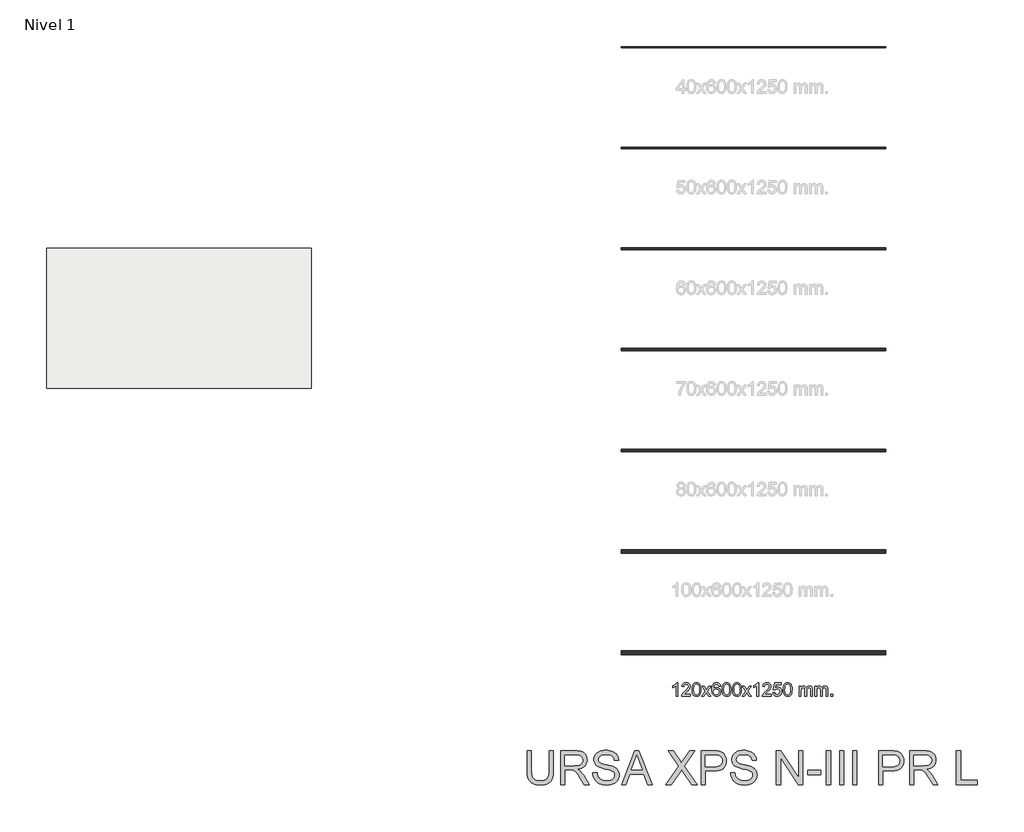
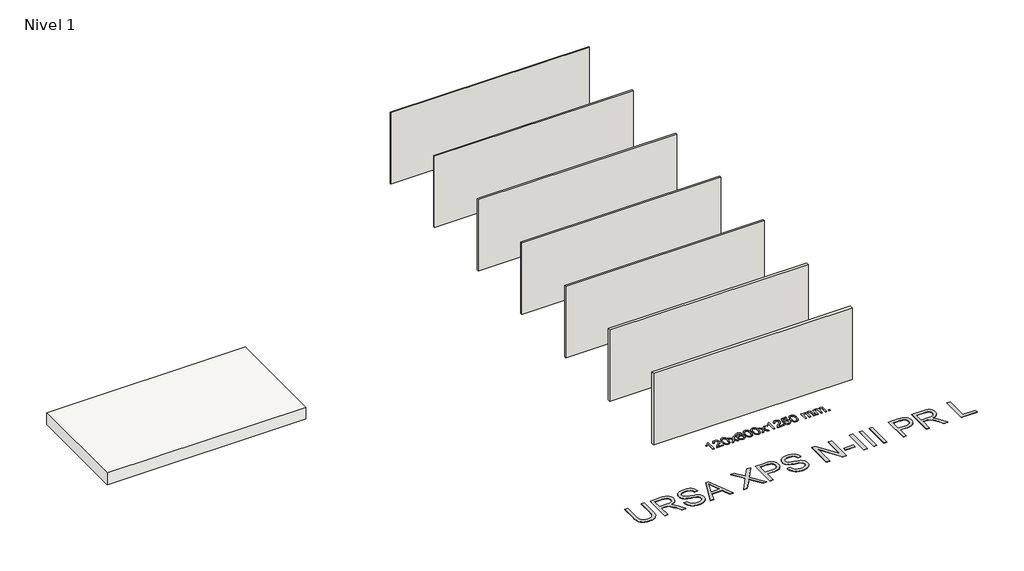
# One storey, part 1 of 4: 7 walls, 2 proxies, 1 slab.
"""IFC4 building model written with IfcOpenShell, lengths in millimetres."""

from ifc_helpers import new_model, si_unit, frame, origin, origin_with_axes, place, context, project, spatial, polyline, outline, extrude, element, save

model = new_model("IFC4")

# Units and contexts
model_context = context("Model", 3, world=origin())
ifc_project = project(units=[si_unit("LENGTHUNIT", "METRE", prefix="MILLI")], contexts=[model_context])

# Site, building, storey
site = spatial("IfcSite", under=ifc_project)
building = spatial("IfcBuilding", under=site)
storey = spatial("IfcBuildingStorey", under=building, Name="Nivel 1", Elevation=0.0)

# Proxies
placement = place(None, origin())
element("IfcBuildingElementProxy", 1, Name="Texto de modelo 1", ObjectType="Texto de modelo 1", at=placement, inside=storey, context=model_context, shape_type="SweptSolid", body=[
    extrude(outline(polyline([(-4836.3117093, -15377.579453), (-4886.5398644, -15377.579453), (-4886.5398644, -15064.4382987), (-4907.5091381, -15081.3976587), (-4934.1192691, -15098.3324932), (-4986.9961745, -15123.6918254), (-4986.9961745, -15076.2105225), (-4947.5469619, -15054.7507395), (-4913.3707246, -15029.219729), (-4886.4294998, -15002.0700378), (-4868.6853249, -14975.7542124), (-4836.3117093, -14975.7542124), (-4836.3117093, -15377.579453)])), origin_with_axes(), (0.0, 0.0, 1.0), 10.0),
    extrude(outline(polyline([(-4459.6005462, -15327.3512979), (-4459.6005462, -15377.579453), (-4723.2983604, -15377.579453), (-4722.1947144, -15359.8965918), (-4717.9027578, -15342.9494945), (-4705.5173973, -15315.8856424), (-4687.3930777, -15289.6311307), (-4661.1753541, -15262.1503456), (-4624.5097819, -15231.4076736), (-4570.3085013, -15183.2641831), (-4537.7877329, -15147.7267824), (-4521.5273488, -15118.884834), (-4516.1072207, -15090.8277005), (-4521.2207804, -15065.6768347), (-4536.5614596, -15044.7688747), (-4560.1426955, -15030.6789943), (-4589.9779253, -15025.9823675), (-4621.3092086, -15030.5686297), (-4645.6507339, -15044.3274163), (-4661.3592951, -15066.1796068), (-4666.7916859, -15095.0460807), (-4717.019841, -15088.7675613), (-4712.7002932, -15062.838012), (-4704.842947, -15040.1826125), (-4693.4478022, -15020.8013627), (-4678.5148588, -15004.6942627), (-4660.3874735, -14992.0329907), (-4639.4090027, -14982.989225), (-4615.5794465, -14977.5629655), (-4588.8988048, -14975.7542124), (-4561.9790398, -14977.7653006), (-4538.0207249, -14983.7985654), (-4517.02386, -14993.8540066), (-4498.9884452, -15007.9316242), (-4484.5030916, -15024.9890861), (-4474.1564105, -15043.9840598), (-4467.9484018, -15064.9165453), (-4465.8790656, -15087.7865427), (-4468.1108831, -15111.8092369), (-4474.8063354, -15135.4149983), (-4486.6889238, -15159.4254299), (-4504.4821497, -15184.6621347), (-4532.8458515, -15214.7916701), (-4576.4398679, -15253.4805933), (-4634.2218666, -15301.795762), (-4656.8833975, -15327.3512979), (-4459.6005462, -15327.3512979)])), origin_with_axes(), (0.0, 0.0, 1.0), 10.0),
    extrude(outline(polyline([(-4409.3723912, -15179.9041943), (-4405.6813085, -15115.5861588), (-4394.6080604, -15064.2911459), (-4376.2630116, -15025.2343407), (-4364.4049486, -15010.0009605), (-4350.7565266, -14997.6309284), (-4335.2717603, -14988.0598651), (-4317.9046644, -14981.2233914), (-4277.5234841, -14975.7542124), (-4246.5723456, -14978.991574), (-4218.8585686, -14988.7036586), (-4195.6820029, -15004.5103217), (-4178.3424982, -15026.0314184), (-4165.2458992, -15053.0830078), (-4154.7980505, -15085.4811488), (-4147.9554454, -15126.6226186), (-4145.674577, -15179.9041943), (-4149.3288715, -15243.8543477), (-4160.291755, -15295.0267333), (-4178.5264392, -15334.1203266), (-4190.356911, -15349.3996922), (-4203.996136, -15361.8341036), (-4219.4992964, -15371.4695462), (-4236.9215746, -15378.3520052), (-4277.5234841, -15383.8579724), (-4305.1882101, -15381.4667394), (-4329.7136765, -15374.2930405), (-4351.0998831, -15362.3368757), (-4369.3468301, -15345.5982449), (-4386.8580131, -15315.3399508), (-4399.3660009, -15277.6381776), (-4406.8707936, -15232.4929255), (-4409.3723912, -15179.9041943)]), holes=[polyline([(-4359.1442361, -15179.8060924), (-4357.6727081, -15223.4706195), (-4353.2581242, -15258.8148822), (-4345.9004843, -15285.8388804), (-4335.5997884, -15304.5426142), (-4323.1408515, -15317.2682656), (-4309.3084885, -15326.3580165), (-4294.1026993, -15331.8118671), (-4277.5234841, -15333.6298173), (-4260.9442688, -15331.8057357), (-4245.7384797, -15326.3334911), (-4231.9061167, -15317.2130833), (-4219.4471798, -15304.4445124), (-4209.1464839, -15285.7101217), (-4201.788844, -15258.6922549), (-4197.3742601, -15223.3909118), (-4195.9027321, -15179.8060924), (-4197.3252091, -15137.2973278), (-4201.5926403, -15102.5753989), (-4208.7050255, -15075.6403055), (-4218.6623649, -15056.4920476), (-4230.9128353, -15043.1440625), (-4244.9046139, -15033.6097875), (-4260.6377005, -15027.8892225), (-4278.1120953, -15025.9823675), (-4294.6054714, -15027.6623619), (-4309.5537431, -15032.7023452), (-4322.9569105, -15041.1023175), (-4334.8149735, -15052.8622786), (-4345.4590259, -15073.708925), (-4353.0619204, -15101.8151094), (-4357.6236572, -15137.1808319), (-4359.1442361, -15179.8060924)])]), origin_with_axes(), (0.0, 0.0, 1.0), 10.0),
    extrude(outline(polyline([(-4120.5604995, -15377.579453), (-4013.2370588, -15229.2494325), (-4114.2819801, -15082.4890419), (-4053.851231, -15082.4890419), (-4005.0946039, -15153.122385), (-3982.3349712, -15186.4770192), (-3962.6164962, -15159.2047007), (-3907.0908404, -15082.4890419), (-3846.6600913, -15082.4890419), (-3952.8063097, -15229.2494325), (-3850.584166, -15377.579453), (-3911.014915, -15377.579453), (-3972.5247846, -15288.4048574), (-3983.8064991, -15272.1199477), (-4060.1297504, -15377.579453), (-4120.5604995, -15377.579453)])), origin_with_axes(), (0.0, 0.0, 1.0), 10.0),
    extrude(outline(polyline([(-3561.7722743, -15082.4890419), (-3612.0004294, -15088.7675613), (-3620.0938332, -15063.874213), (-3631.0321912, -15046.8780648), (-3653.8163495, -15031.2062918), (-3681.3584482, -15025.9823675), (-3704.7066921, -15029.0235253), (-3726.68151, -15038.1469988), (-3745.5538563, -15057.3627017), (-3760.9681119, -15083.8134171), (-3771.3791724, -15121.227016), (-3775.2419333, -15173.3313693), (-3755.0942627, -15149.8237098), (-3730.9489411, -15133.2567573), (-3704.1548691, -15123.434308), (-3676.0609474, -15120.1601582), (-3651.9278886, -15122.398107), (-3629.6587651, -15129.1119534), (-3609.2535771, -15140.3016975), (-3590.7123246, -15155.9673391), (-3575.3042003, -15175.1769106), (-3564.2983973, -15196.9984443), (-3557.6949155, -15221.4319401), (-3555.4937549, -15248.4773982), (-3559.6385587, -15284.4439945), (-3572.0729701, -15317.786366), (-3591.7669196, -15346.0642287), (-3617.6903375, -15366.8372987), (-3648.6660015, -15379.602804), (-3683.5166892, -15383.8579724), (-3713.4592179, -15381.0375437), (-3740.5016103, -15372.5762579), (-3764.6438662, -15358.4741147), (-3785.8859857, -15338.7311143), (-3803.2040307, -15312.5133908), (-3815.5740627, -15278.9870783), (-3822.996082, -15238.1521768), (-3825.4700884, -15190.0086864), (-3822.7232362, -15136.0342663), (-3814.4826795, -15089.9693092), (-3800.7484183, -15051.8138149), (-3781.5204527, -15021.5677835), (-3760.6799377, -15001.5243462), (-3736.516222, -14987.2076052), (-3709.0293056, -14978.6175606), (-3678.2191885, -14975.7542124), (-3655.0855424, -14977.5261773), (-3634.1469255, -14982.8420722), (-3615.4033378, -14991.7018969), (-3598.8547794, -15004.1056515), (-3584.94884, -15019.6364031), (-3574.1331093, -15037.8772186), (-3566.4075874, -15058.8280983), (-3561.7722743, -15082.4890419)]), holes=[polyline([(-3775.2419333, -15247.6925832), (-3772.3356656, -15269.9494439), (-3763.6168623, -15291.2007605), (-3750.0788049, -15309.472233), (-3732.7147747, -15322.7895612), (-3711.7577637, -15330.9197533), (-3687.4407638, -15333.6298173), (-3654.2945961, -15328.0134855), (-3640.3794596, -15320.9930708), (-3628.2362881, -15311.1644901), (-3618.3862477, -15298.9262824), (-3611.3505045, -15284.6769865), (-3605.72191, -15250.1451299), (-3611.2769281, -15216.9989621), (-3618.2207008, -15203.3781312), (-3627.9419825, -15191.725469), (-3640.1219422, -15182.3904634), (-3654.4417489, -15175.7226022), (-3689.500903, -15170.3883133), (-3722.5980198, -15175.7226022), (-3750.2750086, -15191.725469), (-3761.1980382, -15203.2248471), (-3769.0002022, -15216.3858254), (-3773.6815005, -15231.2084042), (-3775.2419333, -15247.6925832)])]), origin_with_axes(), (0.0, 0.0, 1.0), 10.0),
    extrude(outline(polyline([(-3511.5441192, -15179.9041943), (-3507.8530365, -15115.5861588), (-3496.7797885, -15064.2911459), (-3478.4347396, -15025.2343407), (-3466.5766767, -15010.0009605), (-3452.9282546, -14997.6309284), (-3437.4434883, -14988.0598651), (-3420.0763925, -14981.2233914), (-3379.6952121, -14975.7542124), (-3348.7440736, -14978.991574), (-3321.0302966, -14988.7036586), (-3297.8537309, -15004.5103217), (-3280.5142262, -15026.0314184), (-3267.4176272, -15053.0830078), (-3256.9697785, -15085.4811488), (-3250.1271734, -15126.6226186), (-3247.8463051, -15179.9041943), (-3251.5005995, -15243.8543477), (-3262.463483, -15295.0267333), (-3280.6981672, -15334.1203266), (-3292.5286391, -15349.3996922), (-3306.167864, -15361.8341036), (-3321.6710244, -15371.4695462), (-3339.0933026, -15378.3520052), (-3379.6952121, -15383.8579724), (-3407.3599382, -15381.4667394), (-3431.8854045, -15374.2930405), (-3453.2716112, -15362.3368757), (-3471.5185581, -15345.5982449), (-3489.0297411, -15315.3399508), (-3501.5377289, -15277.6381776), (-3509.0425216, -15232.4929255), (-3511.5441192, -15179.9041943)]), holes=[polyline([(-3461.3159641, -15179.8060924), (-3459.8444361, -15223.4706195), (-3455.4298522, -15258.8148822), (-3448.0722123, -15285.8388804), (-3437.7715164, -15304.5426142), (-3425.3125795, -15317.2682656), (-3411.4802165, -15326.3580165), (-3396.2744274, -15331.8118671), (-3379.6952121, -15333.6298173), (-3363.1159969, -15331.8057357), (-3347.9102077, -15326.3334911), (-3334.0778447, -15317.2130833), (-3321.6189078, -15304.4445124), (-3311.318212, -15285.7101217), (-3303.9605721, -15258.6922549), (-3299.5459881, -15223.3909118), (-3298.0744601, -15179.8060924), (-3299.4969372, -15137.2973278), (-3303.7643683, -15102.5753989), (-3310.8767536, -15075.6403055), (-3320.8340929, -15056.4920476), (-3333.0845633, -15043.1440625), (-3347.0763419, -15033.6097875), (-3362.8094286, -15027.8892225), (-3380.2838233, -15025.9823675), (-3396.7771994, -15027.6623619), (-3411.7254712, -15032.7023452), (-3425.1286385, -15041.1023175), (-3436.9867015, -15052.8622786), (-3447.6307539, -15073.708925), (-3455.2336485, -15101.8151094), (-3459.7953852, -15137.1808319), (-3461.3159641, -15179.8060924)])]), origin_with_axes(), (0.0, 0.0, 1.0), 10.0),
    extrude(outline(polyline([(-3203.8966694, -15179.9041943), (-3200.2055867, -15115.5861588), (-3189.1323386, -15064.2911459), (-3170.7872898, -15025.2343407), (-3158.9292268, -15010.0009605), (-3145.2808048, -14997.6309284), (-3129.7960385, -14988.0598651), (-3112.4289426, -14981.2233914), (-3072.0477623, -14975.7542124), (-3041.0966238, -14978.991574), (-3013.3828468, -14988.7036586), (-2990.2062811, -15004.5103217), (-2972.8667764, -15026.0314184), (-2959.7701774, -15053.0830078), (-2949.3223287, -15085.4811488), (-2942.4797236, -15126.6226186), (-2940.1988552, -15179.9041943), (-2943.8531497, -15243.8543477), (-2954.8160332, -15295.0267333), (-2973.0507174, -15334.1203266), (-2984.8811892, -15349.3996922), (-2998.5204142, -15361.8341036), (-3014.0235746, -15371.4695462), (-3031.4458528, -15378.3520052), (-3072.0477623, -15383.8579724), (-3099.7124883, -15381.4667394), (-3124.2379547, -15374.2930405), (-3145.6241613, -15362.3368757), (-3163.8711083, -15345.5982449), (-3181.3822913, -15315.3399508), (-3193.8902791, -15277.6381776), (-3201.3950718, -15232.4929255), (-3203.8966694, -15179.9041943)]), holes=[polyline([(-3153.6685143, -15179.8060924), (-3152.1969863, -15223.4706195), (-3147.7824024, -15258.8148822), (-3140.4247625, -15285.8388804), (-3130.1240666, -15304.5426142), (-3117.6651297, -15317.2682656), (-3103.8327667, -15326.3580165), (-3088.6269775, -15331.8118671), (-3072.0477623, -15333.6298173), (-3055.468547, -15331.8057357), (-3040.2627579, -15326.3334911), (-3026.4303949, -15317.2130833), (-3013.971458, -15304.4445124), (-3003.6707621, -15285.7101217), (-2996.3131222, -15258.6922549), (-2991.8985383, -15223.3909118), (-2990.4270103, -15179.8060924), (-2991.8494873, -15137.2973278), (-2996.1169185, -15102.5753989), (-3003.2293037, -15075.6403055), (-3013.1866431, -15056.4920476), (-3025.4371135, -15043.1440625), (-3039.4288921, -15033.6097875), (-3055.1619787, -15027.8892225), (-3072.6363735, -15025.9823675), (-3089.1297496, -15027.6623619), (-3104.0780213, -15032.7023452), (-3117.4811887, -15041.1023175), (-3129.3392517, -15052.8622786), (-3139.9833041, -15073.708925), (-3147.5861986, -15101.8151094), (-3152.1479354, -15137.1808319), (-3153.6685143, -15179.8060924)])]), origin_with_axes(), (0.0, 0.0, 1.0), 10.0),
    extrude(outline(polyline([(-2915.0847777, -15377.579453), (-2807.761337, -15229.2494325), (-2908.8062583, -15082.4890419), (-2848.3755092, -15082.4890419), (-2799.6188821, -15153.122385), (-2776.8592494, -15186.4770192), (-2757.1407744, -15159.2047007), (-2701.6151186, -15082.4890419), (-2641.1843695, -15082.4890419), (-2747.3305879, -15229.2494325), (-2645.1084442, -15377.579453), (-2705.5391932, -15377.579453), (-2767.0490628, -15288.4048574), (-2778.3307773, -15272.1199477), (-2854.6540286, -15377.579453), (-2915.0847777, -15377.579453)])), origin_with_axes(), (0.0, 0.0, 1.0), 10.0),
    extrude(outline(polyline([(-2425.3602657, -15377.579453), (-2475.5884208, -15377.579453), (-2475.5884208, -15064.4382987), (-2496.5576945, -15081.3976587), (-2523.1678255, -15098.3324932), (-2576.0447309, -15123.6918254), (-2576.0447309, -15076.2105225), (-2536.5955183, -15054.7507395), (-2502.419281, -15029.219729), (-2475.4780562, -15002.0700378), (-2457.7338813, -14975.7542124), (-2425.3602657, -14975.7542124), (-2425.3602657, -15377.579453)])), origin_with_axes(), (0.0, 0.0, 1.0), 10.0),
    extrude(outline(polyline([(-2048.6491026, -15327.3512979), (-2048.6491026, -15377.579453), (-2312.3469168, -15377.579453), (-2311.2432708, -15359.8965918), (-2306.9513142, -15342.9494945), (-2294.5659537, -15315.8856424), (-2276.4416341, -15289.6311307), (-2250.2239105, -15262.1503456), (-2213.5583384, -15231.4076736), (-2159.3570577, -15183.2641831), (-2126.8362894, -15147.7267824), (-2110.5759052, -15118.884834), (-2105.1557771, -15090.8277005), (-2110.2693368, -15065.6768347), (-2125.610016, -15044.7688747), (-2149.1912519, -15030.6789943), (-2179.0264817, -15025.9823675), (-2210.357765, -15030.5686297), (-2234.6992903, -15044.3274163), (-2250.4078515, -15066.1796068), (-2255.8402423, -15095.0460807), (-2306.0683974, -15088.7675613), (-2301.7488496, -15062.838012), (-2293.8915034, -15040.1826125), (-2282.4963586, -15020.8013627), (-2267.5634152, -15004.6942627), (-2249.4360299, -14992.0329907), (-2228.4575592, -14982.989225), (-2204.6280029, -14977.5629655), (-2177.9473612, -14975.7542124), (-2151.0275962, -14977.7653006), (-2127.0692813, -14983.7985654), (-2106.0724164, -14993.8540066), (-2088.0370016, -15007.9316242), (-2073.551648, -15024.9890861), (-2063.2049669, -15043.9840598), (-2056.9969583, -15064.9165453), (-2054.927622, -15087.7865427), (-2057.1594395, -15111.8092369), (-2063.8548918, -15135.4149983), (-2075.7374802, -15159.4254299), (-2093.5307061, -15184.6621347), (-2121.8944079, -15214.7916701), (-2165.4884243, -15253.4805933), (-2223.270423, -15301.795762), (-2245.9319539, -15327.3512979), (-2048.6491026, -15327.3512979)])), origin_with_axes(), (0.0, 0.0, 1.0), 10.0),
    extrude(outline(polyline([(-1998.4209476, -15270.8446235), (-1948.1927925, -15264.5661041), (-1938.9712172, -15294.7201649), (-1922.8825112, -15316.3148381), (-1900.0002511, -15329.3010725), (-1870.3980133, -15333.6298173), (-1851.2681495, -15332.1245668), (-1834.3946287, -15327.6088153), (-1819.7774507, -15320.0825628), (-1807.4166157, -15309.5458094), (-1797.588035, -15296.519721), (-1790.5676203, -15281.5254641), (-1784.9512885, -15245.6324441), (-1790.212001, -15211.8363514), (-1796.7878917, -15197.9181493), (-1805.9941386, -15185.9865099), (-1817.8613987, -15176.4154467), (-1832.4203286, -15169.5789729), (-1869.6131983, -15164.1097939), (-1893.9792491, -15166.2925604), (-1913.7099868, -15172.8408599), (-1929.4675989, -15182.8717757), (-1941.9142731, -15195.5023908), (-1992.1424282, -15189.2238715), (-1948.1927925, -14982.0327318), (-1753.5586916, -14982.0327318), (-1753.5586916, -15032.2608869), (-1907.5786202, -15032.2608869), (-1929.0629287, -15142.919791), (-1911.3371479, -15130.2155994), (-1893.1821715, -15121.1411769), (-1874.5979994, -15115.6965234), (-1855.5846316, -15113.8816388), (-1831.1235446, -15116.1318504), (-1808.6551517, -15122.882485), (-1788.179453, -15134.1335427), (-1769.6964484, -15149.8850234), (-1754.3956231, -15169.1743027), (-1743.4664622, -15191.038756), (-1736.9089656, -15215.4783832), (-1734.7231334, -15242.4931844), (-1736.6913021, -15268.5147042), (-1742.5958081, -15292.7213394), (-1752.4366515, -15315.1130902), (-1766.2138322, -15335.6899565), (-1787.0850041, -15356.7634634), (-1811.4387922, -15371.8159684), (-1839.2751965, -15380.8474714), (-1870.594217, -15383.8579724), (-1896.5145692, -15381.9235262), (-1919.9271925, -15376.1201877), (-1940.8320869, -15366.447957), (-1959.2292524, -15352.9068338), (-1974.536209, -15336.1712688), (-1986.1704771, -15316.915712), (-1994.1320566, -15295.1401636), (-1998.4209476, -15270.8446235)])), origin_with_axes(), (0.0, 0.0, 1.0), 10.0),
    extrude(outline(polyline([(-1690.7734977, -15179.9041943), (-1687.0824151, -15115.5861588), (-1676.009167, -15064.2911459), (-1657.6641182, -15025.2343407), (-1645.8060552, -15010.0009605), (-1632.1576332, -14997.6309284), (-1616.6728669, -14988.0598651), (-1599.305771, -14981.2233914), (-1558.9245907, -14975.7542124), (-1527.9734521, -14978.991574), (-1500.2596752, -14988.7036586), (-1477.0831095, -15004.5103217), (-1459.7436048, -15026.0314184), (-1446.6470057, -15053.0830078), (-1436.1991571, -15085.4811488), (-1429.356552, -15126.6226186), (-1427.0756836, -15179.9041943), (-1430.7299781, -15243.8543477), (-1441.6928615, -15295.0267333), (-1459.9275458, -15334.1203266), (-1471.7580176, -15349.3996922), (-1485.3972426, -15361.8341036), (-1500.900403, -15371.4695462), (-1518.3226811, -15378.3520052), (-1558.9245907, -15383.8579724), (-1586.5893167, -15381.4667394), (-1611.1147831, -15374.2930405), (-1632.5009897, -15362.3368757), (-1650.7479367, -15345.5982449), (-1668.2591196, -15315.3399508), (-1680.7671075, -15277.6381776), (-1688.2719002, -15232.4929255), (-1690.7734977, -15179.9041943)]), holes=[polyline([(-1640.5453427, -15179.8060924), (-1639.0738147, -15223.4706195), (-1634.6592307, -15258.8148822), (-1627.3015908, -15285.8388804), (-1617.000895, -15304.5426142), (-1604.5419581, -15317.2682656), (-1590.7095951, -15326.3580165), (-1575.5038059, -15331.8118671), (-1558.9245907, -15333.6298173), (-1542.3453754, -15331.8057357), (-1527.1395863, -15326.3334911), (-1513.3072233, -15317.2130833), (-1500.8482864, -15304.4445124), (-1490.5475905, -15285.7101217), (-1483.1899506, -15258.6922549), (-1478.7753667, -15223.3909118), (-1477.3038387, -15179.8060924), (-1478.7263157, -15137.2973278), (-1482.9937469, -15102.5753989), (-1490.1061321, -15075.6403055), (-1500.0634714, -15056.4920476), (-1512.3139419, -15043.1440625), (-1526.3057204, -15033.6097875), (-1542.0388071, -15027.8892225), (-1559.5132019, -15025.9823675), (-1576.006578, -15027.6623619), (-1590.9548497, -15032.7023452), (-1604.3580171, -15041.1023175), (-1616.2160801, -15052.8622786), (-1626.8601324, -15073.708925), (-1634.463027, -15101.8151094), (-1639.0247638, -15137.1808319), (-1640.5453427, -15179.8060924)])]), origin_with_axes(), (0.0, 0.0, 1.0), 10.0),
    extrude(outline(polyline([(-1213.6060245, -15377.579453), (-1213.6060245, -15082.4890419), (-1163.3778695, -15082.4890419), (-1163.3778695, -15131.0494653), (-1148.2701822, -15108.7435537), (-1128.8460128, -15091.2691589), (-1105.767549, -15079.9751816), (-1079.6969783, -15076.2105225), (-1051.7624721, -15080.048758), (-1029.3707213, -15091.5634645), (-1012.6443533, -15109.9943524), (-1001.7059953, -15134.5811324), (-983.3977347, -15109.0439906), (-962.5143001, -15090.803175), (-939.0556915, -15079.8586857), (-913.021909, -15076.2105225), (-892.9140923, -15077.7280358), (-875.2649536, -15082.2805755), (-860.0744928, -15089.8681416), (-847.3427101, -15100.4907342), (-837.2780719, -15114.2709806), (-830.0890446, -15131.3315082), (-825.7756282, -15151.6723168), (-824.3378227, -15175.2934066), (-824.3378227, -15377.579453), (-874.5659778, -15377.579453), (-874.5659778, -15196.875817), (-875.7309374, -15171.8230531), (-879.2258164, -15154.9372695), (-885.7741159, -15143.3735121), (-896.0993372, -15134.2868268), (-909.3798773, -15128.4007149), (-924.7941329, -15126.4386776), (-952.0051378, -15131.4663982), (-974.1884221, -15146.54956), (-982.7937951, -15158.1194488), (-988.9404901, -15172.7182326), (-993.8578461, -15211.0024856), (-993.8578461, -15377.579453), (-1044.0860012, -15377.579453), (-1044.0860012, -15191.2840106), (-1046.9922689, -15162.8835206), (-1055.7110722, -15142.6254854), (-1071.0517514, -15130.4853796), (-1093.8236469, -15126.4386776), (-1113.1742398, -15129.1364789), (-1131.0042539, -15137.2298828), (-1145.7195337, -15150.5226856), (-1155.725924, -15168.8186835), (-1161.4648831, -15194.2025411), (-1163.3778695, -15228.7589232), (-1163.3778695, -15377.579453), (-1213.6060245, -15377.579453)])), origin_with_axes(), (0.0, 0.0, 1.0), 10.0),
    extrude(outline(polyline([(-748.9955901, -15377.579453), (-748.9955901, -15082.4890419), (-698.767435, -15082.4890419), (-698.767435, -15131.0494653), (-683.6597477, -15108.7435537), (-664.2355784, -15091.2691589), (-641.1571146, -15079.9751816), (-615.0865438, -15076.2105225), (-587.1520377, -15080.048758), (-564.7602869, -15091.5634645), (-548.0339189, -15109.9943524), (-537.0955609, -15134.5811324), (-518.7873002, -15109.0439906), (-497.9038656, -15090.803175), (-474.4452571, -15079.8586857), (-448.4114746, -15076.2105225), (-428.3036578, -15077.7280358), (-410.6545191, -15082.2805755), (-395.4640584, -15089.8681416), (-382.7322757, -15100.4907342), (-372.6676374, -15114.2709806), (-365.4786101, -15131.3315082), (-361.1651937, -15151.6723168), (-359.7273883, -15175.2934066), (-359.7273883, -15377.579453), (-409.9555433, -15377.579453), (-409.9555433, -15196.875817), (-411.120503, -15171.8230531), (-414.6153819, -15154.9372695), (-421.1636815, -15143.3735121), (-431.4889028, -15134.2868268), (-444.7694428, -15128.4007149), (-460.1836984, -15126.4386776), (-487.3947033, -15131.4663982), (-509.5779876, -15146.54956), (-518.1833606, -15158.1194488), (-524.3300556, -15172.7182326), (-529.2474116, -15211.0024856), (-529.2474116, -15377.579453), (-579.4755667, -15377.579453), (-579.4755667, -15191.2840106), (-582.3818345, -15162.8835206), (-591.1006378, -15142.6254854), (-606.441317, -15130.4853796), (-629.2132125, -15126.4386776), (-648.5638054, -15129.1364789), (-666.3938194, -15137.2298828), (-681.1090992, -15150.5226856), (-691.1154895, -15168.8186835), (-696.8544486, -15194.2025411), (-698.767435, -15228.7589232), (-698.767435, -15377.579453), (-748.9955901, -15377.579453)])), origin_with_axes(), (0.0, 0.0, 1.0), 10.0),
    extrude(outline(polyline([(-271.8281169, -15377.579453), (-271.8281169, -15327.3512979), (-221.5999618, -15327.3512979), (-221.5999618, -15377.579453), (-271.8281169, -15377.579453)])), origin_with_axes(), (0.0, 0.0, 1.0), 10.0),
])
element("IfcBuildingElementProxy", 2, Name="Texto de modelo 2", ObjectType="Texto de modelo 2", at=placement, inside=storey, context=model_context, shape_type="SweptSolid", body=[
    extrude(outline(polyline([(-8674.2938661, -17011.8387308), (-8548.7234784, -17011.8387308), (-8548.7234784, -17591.3755006), (-8550.8541283, -17663.1354823), (-8557.2460779, -17727.0933), (-8567.8993274, -17783.2489537), (-8582.8138766, -17831.6024434), (-8603.2773126, -17873.985515), (-8630.5772223, -17912.229914), (-8664.7136058, -17946.3356407), (-8705.686463, -17976.3026949), (-8753.5417792, -18000.7131981), (-8808.3255396, -18018.1492718), (-8870.0377443, -18028.6109161), (-8938.6783933, -18032.0981308), (-9005.6252522, -18029.0631043), (-9066.1801614, -18019.958025), (-9120.343121, -18004.7828927), (-9168.1141309, -17983.5377074), (-9209.5008554, -17956.5367018), (-9244.5109586, -17924.0941084), (-9273.1444406, -17886.2099271), (-9295.4013013, -17842.8841579), (-9312.0862826, -17792.6299446), (-9324.0041264, -17733.9604305), (-9331.1548327, -17666.8756159), (-9333.5384014, -17591.3755006), (-9333.5384014, -17011.8387308), (-9207.9680137, -17011.8387308), (-9207.9680137, -17586.9609166), (-9206.4198437, -17647.66911), (-9201.7753335, -17699.8087187), (-9194.0344832, -17743.3797425), (-9183.1972927, -17778.3821815), (-9168.5893118, -17807.3452244), (-9149.5360902, -17832.7980599), (-9126.0376277, -17854.7406881), (-9098.0939245, -17873.1731089), (-9066.2414751, -17887.7657614), (-9031.0167741, -17898.1890846), (-8992.4198214, -17904.4430785), (-8950.4506171, -17906.5277431), (-8881.2428168, -17902.4043991), (-8822.7342511, -17890.034367), (-8774.9249202, -17869.4176468), (-8755.0324677, -17856.0167788), (-8737.8148239, -17840.5542386), (-8722.9270994, -17822.1601389), (-8710.0244048, -17799.9645918), (-8690.1741055, -17744.1691559), (-8678.2639259, -17673.1679308), (-8674.2938661, -17586.9609166), (-8674.2938661, -17011.8387308)])), origin_with_axes(), (0.0, 0.0, 1.0), 10.0),
    extrude(outline(polyline([(-8328.9752999, -18016.4018323), (-8328.9752999, -17011.8387308), (-7896.1008189, -17011.8387308), (-7833.9670828, -17013.5325209), (-7779.758138, -17018.6138909), (-7733.4739844, -17027.082841), (-7695.1146222, -17038.9393712), (-7662.4497668, -17055.0955221), (-7633.2491334, -17076.4633347), (-7607.5127221, -17103.0428088), (-7585.240533, -17134.8339446), (-7567.2679647, -17170.1276235), (-7554.4304159, -17207.2147271), (-7546.7278866, -17246.0952555), (-7544.1603769, -17286.7692086), (-7548.4140125, -17338.3646584), (-7561.1749192, -17385.7294653), (-7582.443097, -17428.8636292), (-7612.218546, -17467.7671502), (-7650.8844765, -17501.1984265), (-7698.824099, -17527.9158564), (-7756.0374135, -17547.9194399), (-7822.5244199, -17561.209177), (-7781.1376954, -17588.2485036), (-7751.1553128, -17614.9199483), (-7699.7131472, -17675.9270458), (-7649.3746275, -17744.1691559), (-7481.8656924, -18016.4018323), (-7627.7922171, -18016.4018323), (-7758.5129527, -17808.1806231), (-7810.8135097, -17728.7181121), (-7852.9359982, -17670.3475022), (-7888.0380719, -17630.1563942), (-7919.2773846, -17605.2323891), (-7948.8612284, -17590.6090798), (-7978.9968952, -17581.3200594), (-8051.8375302, -17576.9054754), (-8203.4049122, -17576.9054754), (-8203.4049122, -18016.4018323), (-8328.9752999, -18016.4018323)]), holes=[polyline([(-8203.4049122, -17451.3350877), (-7922.3430679, -17451.3350877), (-7841.6236268, -17446.889847), (-7778.9917171, -17433.5541246), (-7753.8071289, -17423.3300709), (-7731.8415081, -17410.4388726), (-7713.0948548, -17394.8805299), (-7697.5671689, -17376.6550427), (-7685.388742, -17356.6591234), (-7676.6898656, -17335.7894844), (-7671.4705398, -17314.0461257), (-7669.7307646, -17291.4290472), (-7673.0493667, -17259.3160147), (-7683.0051732, -17230.176695), (-7699.5981841, -17204.0110881), (-7722.8283992, -17180.819194), (-7753.2323133, -17161.827286), (-7791.3464208, -17148.2616374), (-7837.1707218, -17140.1222482), (-7890.7052163, -17137.4091185), (-8203.4049122, -17137.4091185), (-8203.4049122, -17451.3350877)])]), origin_with_axes(), (0.0, 0.0, 1.0), 10.0),
    extrude(outline(polyline([(-7371.5010938, -17671.0832662), (-7245.9307061, -17671.0832662), (-7240.18255, -17707.6338753), (-7231.5219947, -17740.7662475), (-7219.9490402, -17770.4803828), (-7205.4636867, -17796.7762812), (-7187.33017, -17820.1827732), (-7164.8127262, -17841.228689), (-7137.9113553, -17859.9140286), (-7106.6260573, -17876.2387922), (-7072.1064634, -17889.4902082), (-7035.5022049, -17898.9555054), (-6996.8132817, -17904.6346837), (-6956.0396939, -17906.5277431), (-6886.0808012, -17900.7949154), (-6854.3663075, -17893.6288807), (-6824.828449, -17883.5964321), (-6798.1953254, -17871.0577874), (-6775.1950365, -17856.3731644), (-6755.8275823, -17839.5425632), (-6740.0929628, -17820.5659836), (-6727.9145359, -17800.263496), (-6719.2156595, -17779.4551706), (-6713.9963337, -17758.1410075), (-6712.2565585, -17736.3210067), (-6717.4682201, -17694.2904887), (-6733.1032049, -17657.9621417), (-6746.2549862, -17641.8443118), (-6764.8636838, -17626.9680836), (-6788.9292976, -17613.3334572), (-6818.4518277, -17600.9404325), (-6884.7625574, -17581.2280889), (-7001.2891793, -17552.9931457), (-7121.3106803, -17521.2633237), (-7165.1116303, -17505.9732282), (-7198.1060468, -17491.0663432), (-7231.6369578, -17471.0627597), (-7260.6153291, -17448.8212274), (-7285.0411607, -17424.3417463), (-7304.9144527, -17397.6243164), (-7320.311847, -17368.9448492), (-7331.3099858, -17338.5792562), (-7337.9088691, -17306.5275374), (-7340.1084969, -17272.7896928), (-7337.387703, -17235.3960208), (-7329.2253212, -17199.2439506), (-7315.6213516, -17164.333482), (-7296.5757941, -17130.6646153), (-7272.3032467, -17099.6092435), (-7243.018307, -17072.53926), (-7208.7209752, -17049.4546648), (-7169.4112511, -17030.3554579), (-7126.4150429, -17015.3872593), (-7081.0582586, -17004.6956888), (-7033.3408982, -16998.2807465), (-6983.2629616, -16996.1424324), (-6928.6324853, -16998.3803812), (-6877.312947, -17005.0942276), (-6829.3043466, -17016.2839716), (-6784.6066842, -17031.9496132), (-6744.0476942, -17051.9531967), (-6708.4551112, -17076.1567663), (-6677.8289351, -17104.560322), (-6652.1691659, -17137.1638639), (-6631.6750731, -17173.01703), (-6616.545926, -17211.1694586), (-6606.7817248, -17251.6211496), (-6602.3824692, -17294.3721031), (-6727.9528569, -17294.3721031), (-6736.3528291, -17254.3036225), (-6751.0067953, -17219.4468035), (-6771.9147553, -17189.801646), (-6799.0767093, -17165.3681502), (-6832.998495, -17146.2689432), (-6874.18595, -17132.6266526), (-6922.6390745, -17124.4412782), (-6978.3578683, -17121.7128201), (-7035.8547585, -17124.4106214), (-7084.9823332, -17132.5040253), (-7125.7405926, -17145.9930317), (-7158.1295366, -17164.8776408), (-7182.8082871, -17187.5790256), (-7200.4359661, -17212.5183592), (-7211.0125734, -17239.6956416), (-7214.5381092, -17269.1108728), (-7212.0395773, -17294.4180884), (-7204.5439817, -17317.3647278), (-7192.0513223, -17337.9507911), (-7174.5615991, -17356.1762783), (-7147.0317631, -17373.4360753), (-7103.6830013, -17390.8798132), (-7044.5153138, -17408.5074921), (-6969.5287004, -17426.3191121), (-6831.0824429, -17459.9803146), (-6782.3687354, -17475.2014322), (-6747.3279753, -17489.3495606), (-6708.8306574, -17510.7940152), (-6675.7442704, -17534.9056143), (-6648.0688145, -17561.6843579), (-6625.8042896, -17591.1302459), (-6608.6901126, -17623.0899942), (-6596.4657005, -17657.4103187), (-6589.1310532, -17694.0912193), (-6586.6861708, -17733.1326961), (-6589.4989352, -17772.4117632), (-6597.9372285, -17810.5411992), (-6612.0010506, -17847.5210039), (-6631.6904015, -17883.3511774), (-6656.6603919, -17916.644498), (-6686.5661325, -17946.0137439), (-6721.4076231, -17971.4589153), (-6761.1848638, -17992.980012), (-6804.7405592, -18010.094189), (-6850.9174138, -18022.3186011), (-6899.7154276, -18029.6532484), (-6951.1346007, -18032.0981308), (-7015.3683299, -18029.4616432), (-7074.1604712, -18021.5521803), (-7127.5110247, -18008.3697421), (-7175.4199904, -17989.9143287), (-7218.1786081, -17966.1552832), (-7256.0781178, -17937.0619487), (-7289.1185195, -17902.6343253), (-7317.2998132, -17862.872413), (-7340.001198, -17819.0637988), (-7356.601873, -17772.4960695), (-7367.1018383, -17723.1692253), (-7371.5010938, -17671.0832662)])), origin_with_axes(), (0.0, 0.0, 1.0), 10.0),
    extrude(outline(polyline([(-6515.3170637, -18016.4018323), (-6114.325689, -17011.8387308), (-6007.3946557, -17011.8387308), (-5606.403281, -18016.4018323), (-5739.0860539, -18016.4018323), (-5854.110491, -17702.4758631), (-6267.8551083, -17702.4758631), (-6382.6342908, -18016.4018323), (-6515.3170637, -18016.4018323)]), holes=[polyline([(-6221.7472316, -17576.9054754), (-5899.9731131, -17576.9054754), (-5990.4720839, -17329.9340293), (-6060.8601723, -17137.4091185), (-6123.4001115, -17308.351619), (-6221.7472316, -17576.9054754)])]), origin_with_axes(), (0.0, 0.0, 1.0), 10.0),
    extrude(outline(polyline([(-5189.7156078, -18016.4018323), (-4802.4584942, -17468.9934235), (-5126.9304139, -17011.8387308), (-4976.3440506, -17011.8387308), (-4793.6293263, -17269.1108728), (-4750.0353099, -17334.2872996), (-4732.0704058, -17369.4200302), (-4659.9655347, -17267.3940902), (-4479.2128477, -17011.8387308), (-4326.4191924, -17011.8387308), (-4650.8911122, -17470.4649515), (-4263.6339986, -18016.4018323), (-4414.2203619, -18016.4018323), (-4672.2282679, -17652.4439118), (-4725.9390392, -17576.9054754), (-4785.0454131, -17659.8015517), (-5036.9219524, -18016.4018323), (-5189.7156078, -18016.4018323)])), origin_with_axes(), (0.0, 0.0, 1.0), 10.0),
    extrude(outline(polyline([(-4138.0636109, -18016.4018323), (-4138.0636109, -17011.8387308), (-3765.7670318, -17011.8387308), (-3679.0695082, -17014.2299638), (-3615.6711777, -17021.4036627), (-3580.7300524, -17028.9375794), (-3548.7473114, -17039.2765963), (-3519.7229549, -17052.4207134), (-3493.6569827, -17068.3699308), (-3470.2734833, -17087.4538093), (-3449.2965454, -17110.0019099), (-3430.7261689, -17136.0142326), (-3414.5623537, -17165.4907775), (-3401.471886, -17197.45819), (-3392.121552, -17230.9431158), (-3386.5113516, -17265.9455548), (-3384.6412848, -17302.465507), (-3389.691998, -17364.1317265), (-3404.8441377, -17420.8621958), (-3430.0977038, -17472.656915), (-3465.4526964, -17519.5158842), (-3487.6884805, -17540.3242095), (-3513.9901271, -17558.3580915), (-3544.3576362, -17573.6175301), (-3578.7910077, -17586.1025253), (-3617.2902417, -17595.8130771), (-3659.8553382, -17602.7491856), (-3757.1831185, -17608.2980724), (-4012.4932232, -17608.2980724), (-4012.4932232, -18016.4018323), (-4138.0636109, -18016.4018323)]), holes=[polyline([(-4012.4932232, -17482.7276847), (-3749.8254786, -17482.7276847), (-3689.4315178, -17479.8459424), (-3638.4798614, -17471.2007155), (-3596.9705096, -17456.792004), (-3564.9034624, -17436.6198079), (-3540.9758043, -17411.2206219), (-3523.8846199, -17381.1309403), (-3513.6299093, -17346.3507634), (-3510.2116724, -17306.880091), (-3512.2273592, -17277.5721587), (-3518.2744195, -17250.4715184), (-3528.3528533, -17225.57817), (-3542.4626607, -17202.8921137), (-3559.8527492, -17183.1491133), (-3579.7720264, -17167.0849328), (-3602.2204923, -17154.6995723), (-3627.1981469, -17145.9930317), (-3675.6359429, -17139.5550968), (-3752.7685346, -17137.4091185), (-4012.4932232, -17137.4091185), (-4012.4932232, -17482.7276847)])]), origin_with_axes(), (0.0, 0.0, 1.0), 10.0),
    extrude(outline(polyline([(-3259.0708971, -17671.0832662), (-3133.5005094, -17671.0832662), (-3127.7523532, -17707.6338753), (-3119.0917979, -17740.7662475), (-3107.5188435, -17770.4803828), (-3093.0334899, -17796.7762812), (-3074.8999732, -17820.1827732), (-3052.3825294, -17841.228689), (-3025.4811585, -17859.9140286), (-2994.1958605, -17876.2387922), (-2959.6762667, -17889.4902082), (-2923.0720081, -17898.9555054), (-2884.383085, -17904.6346837), (-2843.6094972, -17906.5277431), (-2773.6506044, -17900.7949154), (-2741.9361108, -17893.6288807), (-2712.3982522, -17883.5964321), (-2685.7651286, -17871.0577874), (-2662.7648397, -17856.3731644), (-2643.3973855, -17839.5425632), (-2627.662766, -17820.5659836), (-2615.4843391, -17800.263496), (-2606.7854628, -17779.4551706), (-2601.566137, -17758.1410075), (-2599.8263617, -17736.3210067), (-2605.0380233, -17694.2904887), (-2620.6730081, -17657.9621417), (-2633.8247894, -17641.8443118), (-2652.433487, -17626.9680836), (-2676.4991009, -17613.3334572), (-2706.021631, -17600.9404325), (-2772.3323606, -17581.2280889), (-2888.8589826, -17552.9931457), (-3008.8804835, -17521.2633237), (-3052.6814336, -17505.9732282), (-3085.67585, -17491.0663432), (-3119.206761, -17471.0627597), (-3148.1851324, -17448.8212274), (-3172.610964, -17424.3417463), (-3192.4842559, -17397.6243164), (-3207.8816503, -17368.9448492), (-3218.8797891, -17338.5792562), (-3225.4786724, -17306.5275374), (-3227.6783001, -17272.7896928), (-3224.9575062, -17235.3960208), (-3216.7951245, -17199.2439506), (-3203.1911548, -17164.333482), (-3184.1455974, -17130.6646153), (-3159.8730499, -17099.6092435), (-3130.5881103, -17072.53926), (-3096.2907784, -17049.4546648), (-3056.9810544, -17030.3554579), (-3013.9848462, -17015.3872593), (-2968.6280619, -17004.6956888), (-2920.9107014, -16998.2807465), (-2870.8327648, -16996.1424324), (-2816.2022885, -16998.3803812), (-2764.8827502, -17005.0942276), (-2716.8741498, -17016.2839716), (-2672.1764874, -17031.9496132), (-2631.6174975, -17051.9531967), (-2596.0249144, -17076.1567663), (-2565.3987383, -17104.560322), (-2539.7389692, -17137.1638639), (-2519.2448763, -17173.01703), (-2504.1157293, -17211.1694586), (-2494.351528, -17251.6211496), (-2489.9522725, -17294.3721031), (-2615.5226602, -17294.3721031), (-2623.9226324, -17254.3036225), (-2638.5765985, -17219.4468035), (-2659.4845586, -17189.801646), (-2686.6465126, -17165.3681502), (-2720.5682982, -17146.2689432), (-2761.7557533, -17132.6266526), (-2810.2088777, -17124.4412782), (-2865.9276716, -17121.7128201), (-2923.4245617, -17124.4106214), (-2972.5521365, -17132.5040253), (-3013.3103959, -17145.9930317), (-3045.6993399, -17164.8776408), (-3070.3780904, -17187.5790256), (-3088.0057693, -17212.5183592), (-3098.5823767, -17239.6956416), (-3102.1079125, -17269.1108728), (-3099.6093806, -17294.4180884), (-3092.1137849, -17317.3647278), (-3079.6211255, -17337.9507911), (-3062.1314023, -17356.1762783), (-3034.6015663, -17373.4360753), (-2991.2528046, -17390.8798132), (-2932.085117, -17408.5074921), (-2857.0985037, -17426.3191121), (-2718.6522462, -17459.9803146), (-2669.9385386, -17475.2014322), (-2634.8977786, -17489.3495606), (-2596.4004606, -17510.7940152), (-2563.3140737, -17534.9056143), (-2535.6386178, -17561.6843579), (-2513.3740928, -17591.1302459), (-2496.2599159, -17623.0899942), (-2484.0355037, -17657.4103187), (-2476.7008564, -17694.0912193), (-2474.255974, -17733.1326961), (-2477.0687384, -17772.4117632), (-2485.5070317, -17810.5411992), (-2499.5708538, -17847.5210039), (-2519.2602048, -17883.3511774), (-2544.2301952, -17916.644498), (-2574.1359357, -17946.0137439), (-2608.9774263, -17971.4589153), (-2648.7546671, -17992.980012), (-2692.3103625, -18010.094189), (-2738.4872171, -18022.3186011), (-2787.2852309, -18029.6532484), (-2838.7044039, -18032.0981308), (-2902.9381331, -18029.4616432), (-2961.7302745, -18021.5521803), (-3015.080828, -18008.3697421), (-3062.9897936, -17989.9143287), (-3105.7484114, -17966.1552832), (-3143.6479211, -17937.0619487), (-3176.6883228, -17902.6343253), (-3204.8696164, -17862.872413), (-3227.5710012, -17819.0637988), (-3244.1716763, -17772.4960695), (-3254.6716415, -17723.1692253), (-3259.0708971, -17671.0832662)])), origin_with_axes(), (0.0, 0.0, 1.0), 10.0),
    extrude(outline(polyline([(-1893.492931, -18016.4018323), (-1893.492931, -17011.8387308), (-1759.0933754, -17011.8387308), (-1234.2483956, -17807.6901137), (-1234.2483956, -17011.8387308), (-1108.6780079, -17011.8387308), (-1108.6780079, -18016.4018323), (-1243.0775635, -18016.4018323), (-1767.9225433, -17220.3051948), (-1767.9225433, -18016.4018323), (-1893.492931, -18016.4018323)])), origin_with_axes(), (0.0, 0.0, 1.0), 10.0),
    extrude(outline(polyline([(-967.4113218, -17718.1721616), (-967.4113218, -17592.6017739), (-575.0038603, -17592.6017739), (-575.0038603, -17718.1721616), (-967.4113218, -17718.1721616)])), origin_with_axes(), (0.0, 0.0, 1.0), 10.0),
    extrude(outline(polyline([(-402.3445772, -18016.4018323), (-402.3445772, -17011.8387308), (-276.7741895, -17011.8387308), (-276.7741895, -18016.4018323), (-402.3445772, -18016.4018323)])), origin_with_axes(), (0.0, 0.0, 1.0), 10.0),
    extrude(outline(polyline([(-9.9371157, -18016.4018323), (-9.9371157, -17011.8387308), (115.633272, -17011.8387308), (115.633272, -18016.4018323), (-9.9371157, -18016.4018323)])), origin_with_axes(), (0.0, 0.0, 1.0), 10.0),
    extrude(outline(polyline([(382.4703459, -18016.4018323), (382.4703459, -17011.8387308), (508.0407335, -17011.8387308), (508.0407335, -18016.4018323), (382.4703459, -18016.4018323)])), origin_with_axes(), (0.0, 0.0, 1.0), 10.0),
    extrude(outline(polyline([(1151.5889704, -18016.4018323), (1151.5889704, -17011.8387308), (1523.8855496, -17011.8387308), (1610.5830731, -17014.2299638), (1673.9814036, -17021.4036627), (1708.9225289, -17028.9375794), (1740.9052699, -17039.2765963), (1769.9296265, -17052.4207134), (1795.9955987, -17068.3699308), (1819.379098, -17087.4538093), (1840.3560359, -17110.0019099), (1858.9264125, -17136.0142326), (1875.0902276, -17165.4907775), (1888.1806953, -17197.45819), (1897.5310293, -17230.9431158), (1903.1412298, -17265.9455548), (1905.0112966, -17302.465507), (1899.9605833, -17364.1317265), (1884.8084437, -17420.8621958), (1859.5548775, -17472.656915), (1824.199885, -17519.5158842), (1801.9641008, -17540.3242095), (1775.6624542, -17558.3580915), (1745.2949451, -17573.6175301), (1710.8615736, -17586.1025253), (1672.3623396, -17595.8130771), (1629.7972431, -17602.7491856), (1532.4694628, -17608.2980724), (1277.1593581, -17608.2980724), (1277.1593581, -18016.4018323), (1151.5889704, -18016.4018323)]), holes=[polyline([(1277.1593581, -17482.7276847), (1539.8271027, -17482.7276847), (1600.2210636, -17479.8459424), (1651.1727199, -17471.2007155), (1692.6820717, -17456.792004), (1724.7491189, -17436.6198079), (1748.676777, -17411.2206219), (1765.7679614, -17381.1309403), (1776.022672, -17346.3507634), (1779.4409089, -17306.880091), (1777.4252221, -17277.5721587), (1771.3781618, -17250.4715184), (1761.299728, -17225.57817), (1747.1899206, -17202.8921137), (1729.7998322, -17183.1491133), (1709.880555, -17167.0849328), (1687.432089, -17154.6995723), (1662.4544344, -17145.9930317), (1614.0166384, -17139.5550968), (1536.8840467, -17137.4091185), (1277.1593581, -17137.4091185), (1277.1593581, -17482.7276847)])]), origin_with_axes(), (0.0, 0.0, 1.0), 10.0),
    extrude(outline(polyline([(2077.6705796, -18016.4018323), (2077.6705796, -17011.8387308), (2510.5450606, -17011.8387308), (2572.6787968, -17013.5325209), (2626.8877416, -17018.6138909), (2673.1718951, -17027.082841), (2711.5312573, -17038.9393712), (2744.1961128, -17055.0955221), (2773.3967462, -17076.4633347), (2799.1331574, -17103.0428088), (2821.4053465, -17134.8339446), (2839.3779149, -17170.1276235), (2852.2154636, -17207.2147271), (2859.9179929, -17246.0952555), (2862.4855027, -17286.7692086), (2858.2318671, -17338.3646584), (2845.4709604, -17385.7294653), (2824.2027826, -17428.8636292), (2794.4273336, -17467.7671502), (2755.761403, -17501.1984265), (2707.8217805, -17527.9158564), (2650.6084661, -17547.9194399), (2584.1214597, -17561.209177), (2625.5081841, -17588.2485036), (2655.4905667, -17614.9199483), (2706.9327324, -17675.9270458), (2757.2712521, -17744.1691559), (2924.7801872, -18016.4018323), (2778.8536624, -18016.4018323), (2648.1329268, -17808.1806231), (2595.8323698, -17728.7181121), (2553.7098814, -17670.3475022), (2518.6078077, -17630.1563942), (2487.3684949, -17605.2323891), (2457.7846511, -17590.6090798), (2427.6489844, -17581.3200594), (2354.8083493, -17576.9054754), (2203.2409673, -17576.9054754), (2203.2409673, -18016.4018323), (2077.6705796, -18016.4018323)]), holes=[polyline([(2203.2409673, -17451.3350877), (2484.3028116, -17451.3350877), (2565.0222527, -17446.889847), (2627.6541624, -17433.5541246), (2652.8387507, -17423.3300709), (2674.8043715, -17410.4388726), (2693.5510248, -17394.8805299), (2709.0787107, -17376.6550427), (2721.2571376, -17356.6591234), (2729.9560139, -17335.7894844), (2735.1753397, -17314.0461257), (2736.915115, -17291.4290472), (2733.5965128, -17259.3160147), (2723.6407063, -17230.176695), (2707.0476955, -17204.0110881), (2683.8174804, -17180.819194), (2653.4135663, -17161.827286), (2615.2994588, -17148.2616374), (2569.4751577, -17140.1222482), (2515.9406632, -17137.4091185), (2203.2409673, -17137.4091185), (2203.2409673, -17451.3350877)])]), origin_with_axes(), (0.0, 0.0, 1.0), 10.0),
    extrude(outline(polyline([(3474.6411427, -18016.4018323), (3474.6411427, -17011.8387308), (3600.2115303, -17011.8387308), (3600.2115303, -17890.8314446), (4102.4930811, -17890.8314446), (4102.4930811, -18016.4018323), (3474.6411427, -18016.4018323)])), origin_with_axes(), (0.0, 0.0, 1.0), 10.0),
])

# Slab
element("IfcSlab", 3, ObjectType="Aislamiento bajo losa de cimentación, Ursa XPS de Ursa. Poliestireno extrusionado URSA XPS N-V L, 90x600x1250 mm.", at=placement, inside=storey, context=model_context, shape_type="SweptSolid", body=[
    extrude(outline(polyline([(-15769.5892022, -2020.2851318), (-15769.5892022, -6187.1000163), (-23669.5892022, -6187.1000163), (-23669.5892022, -2020.2851318), (-15769.5892022, -2020.2851318)])), frame((0.0, 0.0, -490.0), z_axis=(0.0, 0.0, 1.0), x_axis=(1.0, 0.0, 0.0)), (0.0, 0.0, 1.0), 490.0),
])

# Walls
element("IfcWall", 4, ObjectType="Panel de poliestireno extruido, URSA XPS N-III PR L de URSA. 40x600x1250 mm. De superficie acanalada y canto a media madera. En panel.", at=placement, inside=storey, context=model_context, shape_type="SweptSolid", body=[
    extrude(outline(polyline([(1368.7582768, 3960.3831431), (-6531.2417232, 3960.3831431), (-6531.2417232, 4000.3831431), (1368.7582768, 4000.3831431), (1368.7582768, 3960.3831431)])), origin_with_axes(), (0.0, 0.0, 1.0), 3000.0),
])
element("IfcWall", 5, ObjectType="Panel de poliestireno extruido, URSA XPS N-III PR L de URSA. 50x600x1250 mm. De superficie acanalada y canto a media madera. En panel.", at=placement, inside=storey, context=model_context, shape_type="SweptSolid", body=[
    extrude(outline(polyline([(1368.7582768, 950.3831431), (-6531.2417232, 950.3831431), (-6531.2417232, 1000.3831431), (1368.7582768, 1000.3831431), (1368.7582768, 950.3831431)])), origin_with_axes(), (0.0, 0.0, 1.0), 3000.0),
])
element("IfcWall", 6, ObjectType="Panel de poliestireno extruido, URSA XPS N-III PR L de URSA. 60x600x1250 mm. De superficie acanalada y canto a media madera. En panel.", at=placement, inside=storey, context=model_context, shape_type="SweptSolid", body=[
    extrude(outline(polyline([(1368.7582768, -2063.6168569), (-6531.2417232, -2063.6168569), (-6531.2417232, -2003.6168569), (1368.7582768, -2003.6168569), (1368.7582768, -2063.6168569)])), origin_with_axes(), (0.0, 0.0, 1.0), 3000.0),
])
element("IfcWall", 7, ObjectType="Panel de poliestireno extruido, URSA XPS N-III PR L de URSA. 70x600x1250 mm. De superficie acanalada y canto a media madera. En panel.", at=placement, inside=storey, context=model_context, shape_type="SweptSolid", body=[
    extrude(outline(polyline([(1368.7582768, -5077.6168569), (-6531.2417232, -5077.6168569), (-6531.2417232, -5007.6168569), (1368.7582768, -5007.6168569), (1368.7582768, -5077.6168569)])), origin_with_axes(), (0.0, 0.0, 1.0), 3000.0),
])
element("IfcWall", 8, ObjectType="Panel de poliestireno extruido, URSA XPS N-III PR L de URSA. 80x600x1250 mm. De superficie acanalada y canto a media madera. En panel.", at=placement, inside=storey, context=model_context, shape_type="SweptSolid", body=[
    extrude(outline(polyline([(1368.7582768, -8091.6168569), (-6531.2417232, -8091.6168569), (-6531.2417232, -8011.6168569), (1368.7582768, -8011.6168569), (1368.7582768, -8091.6168569)])), origin_with_axes(), (0.0, 0.0, 1.0), 3000.0),
])
element("IfcWall", 9, ObjectType="Panel de poliestireno extruido, URSA XPS N-III PR L de URSA. 100x600x1250 mm. De superficie acanalada y canto a media madera. En panel.", at=placement, inside=storey, context=model_context, shape_type="SweptSolid", body=[
    extrude(outline(polyline([(1368.7582768, -11115.6168569), (-6531.2417232, -11115.6168569), (-6531.2417232, -11015.6168569), (1368.7582768, -11015.6168569), (1368.7582768, -11115.6168569)])), origin_with_axes(), (0.0, 0.0, 1.0), 3000.0),
])
element("IfcWall", 10, ObjectType="Panel de poliestireno extruido, URSA XPS N-III PR L de URSA. 120x600x1250 mm. De superficie acanalada y canto a media madera. En panel.", at=placement, inside=storey, context=model_context, shape_type="SweptSolid", body=[
    extrude(outline(polyline([(1368.7582768, -14139.6168569), (-6531.2417232, -14139.6168569), (-6531.2417232, -14019.6168569), (1368.7582768, -14019.6168569), (1368.7582768, -14139.6168569)])), origin_with_axes(), (0.0, 0.0, 1.0), 3000.0),
])

save(model, "model.ifc")
